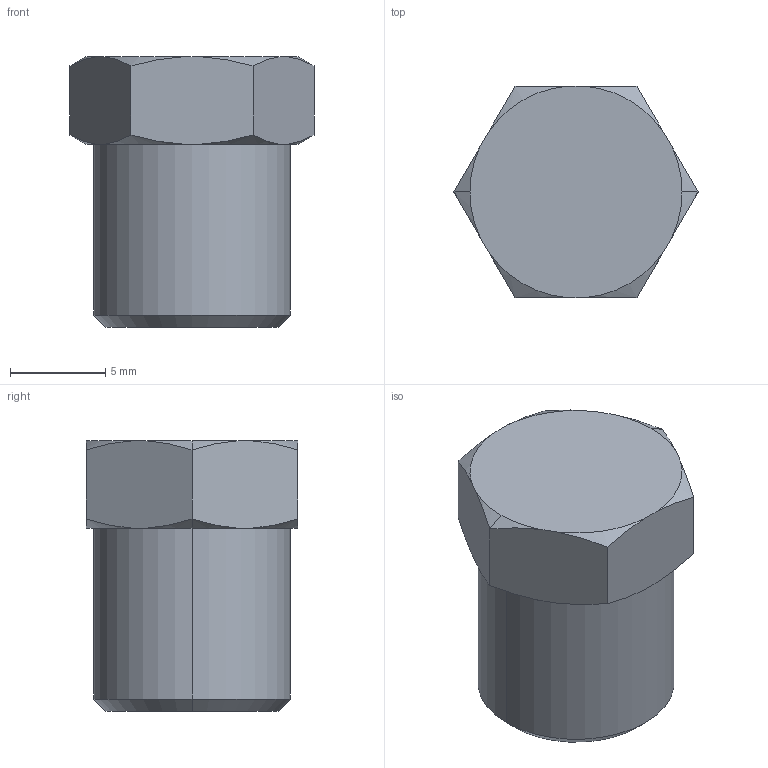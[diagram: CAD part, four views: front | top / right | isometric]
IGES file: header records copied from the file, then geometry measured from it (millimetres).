
Global section: file name: C:\Documents and Settings\Administrator\My Documents\PersonalProject\smallplug.igs; native system: AutoDesk Inventor R2.0 ; preprocessor: AutoDesk Inventor Iges Exporter R2.0; author: No Author specified; organization: No Organization specified; date: 20020115.191412; units: inch
Bounding box: 12.8 x 11.08 x 14.17 mm (x, y, z)
Surface area: 817.1 mm2 (no closed solid volume)
Topology: 0 solids, 0 shells, 32 faces, 156 edges, 156 vertices
Faces by surface type: revolution 22, bspline 10
